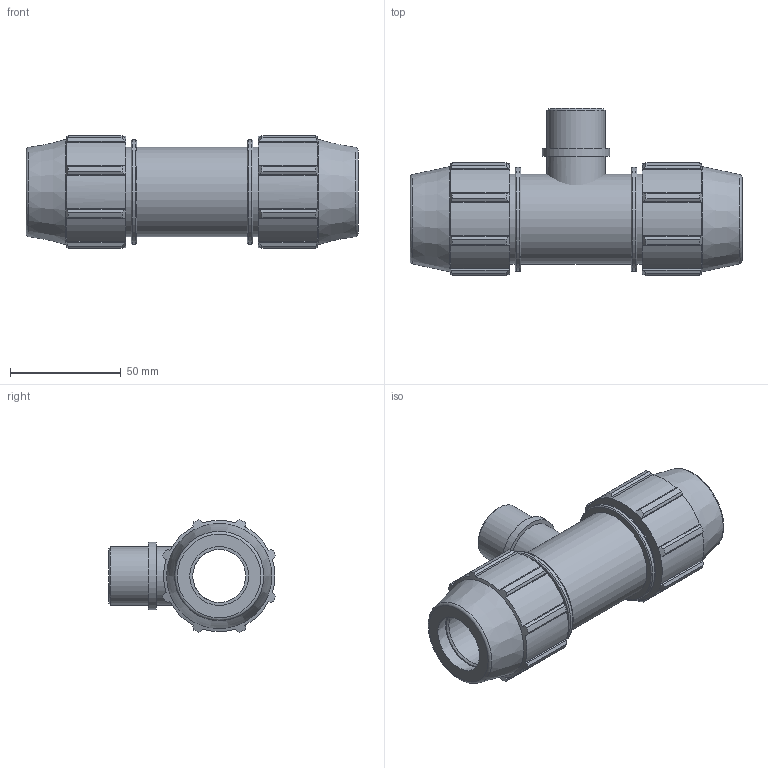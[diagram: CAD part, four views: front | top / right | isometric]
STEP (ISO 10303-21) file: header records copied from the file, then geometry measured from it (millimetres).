
FILE_DESCRIPTION(/* description */ ('PLASSON TEE WITH THREADED MALE OFFTAKE 3/4'''' - 3/4''''M - 3/4'''''),/* implementation_level */ '2;1');
FILE_NAME(/* name */ 'C:\Dropbox\KIMPROJECTS-Inventor 2019\99-16-3568-Processing Inch\ASTM Compression 2021\0784M0\0784M0007007.ipt.stp',/* time_stamp */ '2021-08-26T12:35:21+03:00',/* author */ ('Кирилл'),/* organization */ (''),/* preprocessor_version */ 'ST-DEVELOPER v17.2',/* originating_system */ 'Autodesk Inventor 2019',/* authorisation */ '');
FILE_SCHEMA (('AUTOMOTIVE_DESIGN { 1 0 10303 214 3 1 1 }'));
Length unit declared in the file: inch
Products named in the file (1): 0784M0007007
Bounding box: 150.11 x 75.49 x 50.91 mm (x, y, z)
Volume: 173209.6 mm3; surface area: 47105.6 mm2
Topology: 2 solids, 2 shells, 158 faces, 460 edges, 318 vertices
Faces by surface type: plane 81, cylinder 46, cone 25, torus 6
Full cylindrical faces by diameter (mm): 18.509 x2, 23.94 x1, 26.441 x2, 26.6 x2, 30.407 x1, 40.576 x3, 47.069 x2
Entity records: 5650 total; most frequent: CARTESIAN_POINT 1242, ORIENTED_EDGE 920, DIRECTION 876, EDGE_CURVE 460, AXIS2_PLACEMENT_3D 330, VERTEX_POINT 318, LINE 216, VECTOR 216
